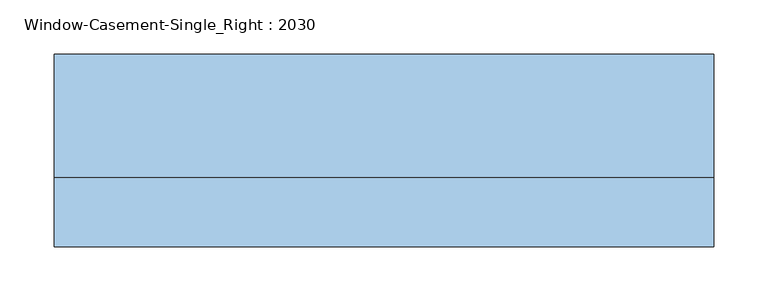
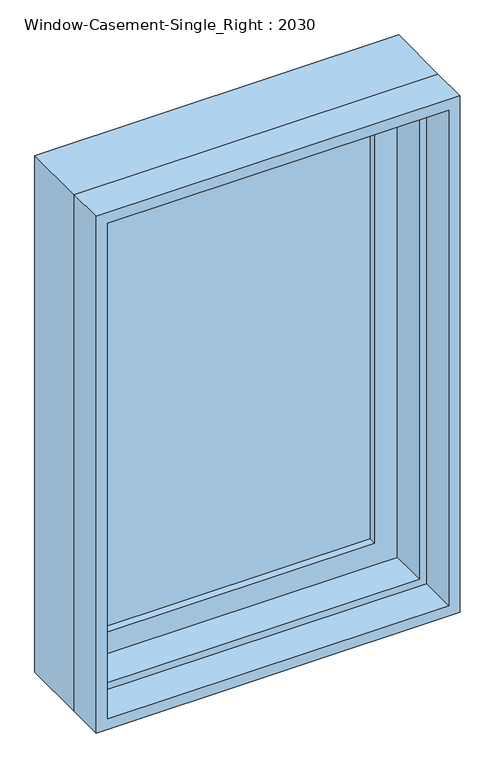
"""IFC4 building model written with IfcOpenShell, lengths in millimetres: window geometry, Window-Casement-Single_Right : 2030."""

from ifc_helpers import new_model, si_unit, frame, origin, place, context, project, spatial, polyline, outline, extrude, faceted_brep, source, transform, mapped, element, save


def window_casement_single_right_2030_6a3f40d4(model_context):
    return source(origin(), model_context, "Body", "SolidModel", [
        extrude(outline(polyline([(234.95, 79.375), (234.95, 73.025), (-234.95, 73.025), (-234.95, 79.375), (234.95, 79.375)])), frame((0.0, 0.0, 984.25), z_axis=(0.0, 0.0, 1.0), x_axis=(1.0, 0.0, 0.0)), (0.0, 0.0, 1.0), 774.7),
        extrude(outline(polyline([(-234.95, 60.325), (-234.95, 66.675), (234.95, 66.675), (234.95, 60.325), (-234.95, 60.325)])), frame((0.0, 0.0, 984.25), z_axis=(0.0, 0.0, 1.0), x_axis=(1.0, 0.0, 0.0)), (0.0, 0.0, 1.0), 774.7),
        extrude(outline(polyline([(1816.1, -292.1), (927.1, -292.1), (927.1, 292.1), (1816.1, 292.1), (1816.1, -292.1)]), holes=[polyline([(1758.95, 234.95), (984.25, 234.95), (984.25, -234.95), (1758.95, -234.95), (1758.95, 234.95)])]), frame((0.0, 47.625, 0.0), z_axis=(0.0, 1.0, 0.0), x_axis=(0.0, 0.0, 1.0)), (0.0, 0.0, 1.0), 44.45),
        extrude(outline(polyline([(1828.8, -304.8), (914.4, -304.8), (914.4, 304.8), (1828.8, 304.8), (1828.8, -304.8)]), holes=[polyline([(1809.75, 285.75), (933.45, 285.75), (933.45, -285.75), (1809.75, -285.75), (1809.75, 285.75)])]), frame((0.0, -79.375, 0.0), z_axis=(0.0, 1.0, 0.0), x_axis=(0.0, 0.0, 1.0)), (0.0, 0.0, 1.0), 63.5),
        faceted_brep([(273.05, 47.625, 1797.05), (273.05, -15.875, 1797.05), (-273.05, -15.875, 1797.05), (-273.05, 47.625, 1797.05), (292.1, 98.425, 1816.1), (292.1, 47.625, 1816.1), (-292.1, 47.625, 1816.1), (-292.1, 98.425, 1816.1), (304.8, -15.875, 1828.8), (304.8, 98.425, 1828.8), (-304.8, 98.425, 1828.8), (-304.8, -15.875, 1828.8), (-273.05, -15.875, 946.15), (-273.05, 47.625, 946.15), (-292.1, 47.625, 927.1), (-292.1, 98.425, 927.1), (-304.8, 98.425, 914.4), (-304.8, -15.875, 914.4), (273.05, -15.875, 946.15), (273.05, 47.625, 946.15), (292.1, 47.625, 927.1), (292.1, 98.425, 927.1), (304.8, 98.425, 914.4), (304.8, -15.875, 914.4)], [[[0, 1, 2, 3]], [[4, 5, 6, 7]], [[8, 9, 10, 11]], [[3, 2, 12, 13]], [[7, 6, 14, 15]], [[11, 10, 16, 17]], [[13, 12, 18, 19]], [[15, 14, 20, 21]], [[17, 16, 22, 23]], [[11, 17, 23, 8], [1, 18, 12, 2]], [[19, 18, 1, 0]], [[5, 20, 14, 6], [3, 13, 19, 0]], [[21, 20, 5, 4]], [[23, 22, 9, 8]], [[9, 22, 16, 10], [7, 15, 21, 4]]]),
    ])


if __name__ == "__main__":
    model = new_model("IFC4")
    model_context = context("Model", 3, world=origin())
    ifc_project = project(units=[si_unit("LENGTHUNIT", "METRE", prefix="MILLI")], contexts=[model_context])
    site = spatial("IfcSite", under=ifc_project)
    building = spatial("IfcBuilding", under=site)
    placement = place(None, origin())
    window_casement_single_right_2030_shape = window_casement_single_right_2030_6a3f40d4(model_context)
    element("IfcWindow", 1, ObjectType="Window-Casement-Single_Right : 2030", at=placement, inside=building, context=model_context, shape_type="MappedRepresentation", body=[
        mapped(window_casement_single_right_2030_shape, transform((0.0, 0.0, 0.0), x_axis=(1.0, 0.0, 0.0), y_axis=(0.0, 1.0, 0.0), z_axis=(0.0, 0.0, 1.0))),
    ])
    save(model, "model.ifc")
